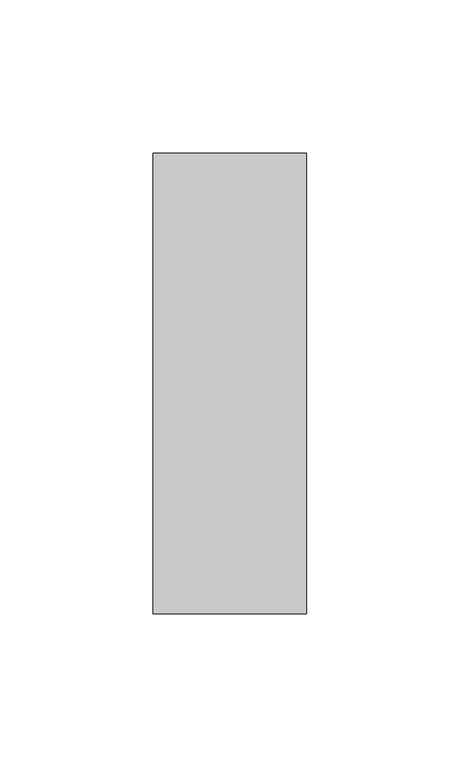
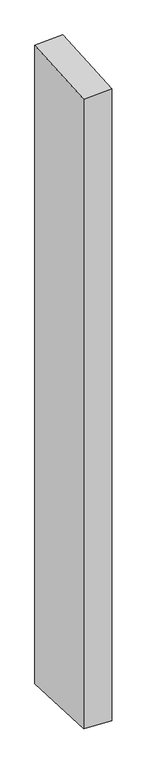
"""IFC4 building model written with IfcOpenShell, lengths in millimetres: member geometry, Прямоугольный импост : 50 x 150 мм."""

from ifc_helpers import new_model, si_unit, origin, place, context, project, spatial, faceted_brep, source, transform, mapped, element, save


def member_0870efcd(model_context):
    return source(origin(), model_context, "Body", "Brep", [
        faceted_brep([(-25.0, 75.0, 3.829769), (25.0, 75.0, 6.1697583), (25.0, 75.0, -1199.7336011), (-25.0, 75.0, -1197.6554792), (-25.0, -75.0, -6.1697583), (-25.0, -75.0, -1192.030473), (25.0, -75.0, -3.829769), (25.0, -75.0, -1194.1085949)], [[[0, 1, 2, 3]], [[4, 0, 3, 5]], [[6, 4, 5, 7]], [[1, 6, 7, 2]], [[1, 0, 4, 6]], [[2, 7, 5, 3]]]),
    ])


if __name__ == "__main__":
    model = new_model("IFC4")
    model_context = context("Model", 3, world=origin())
    ifc_project = project(units=[si_unit("LENGTHUNIT", "METRE", prefix="MILLI")], contexts=[model_context])
    site = spatial("IfcSite", under=ifc_project)
    building = spatial("IfcBuilding", under=site)
    placement = place(None, origin())
    member_shape = member_0870efcd(model_context)
    element("IfcMember", 1, ObjectType="Прямоугольный импост : 50 x 150 мм", at=placement, inside=building, context=model_context, shape_type="MappedRepresentation", body=[
        mapped(member_shape, transform((0.0, 0.0, 0.0), x_axis=(1.0, 0.0, 0.0), y_axis=(0.0, 1.0, 0.0), z_axis=(0.0, 0.0, 1.0))),
    ])
    save(model, "model.ifc")
